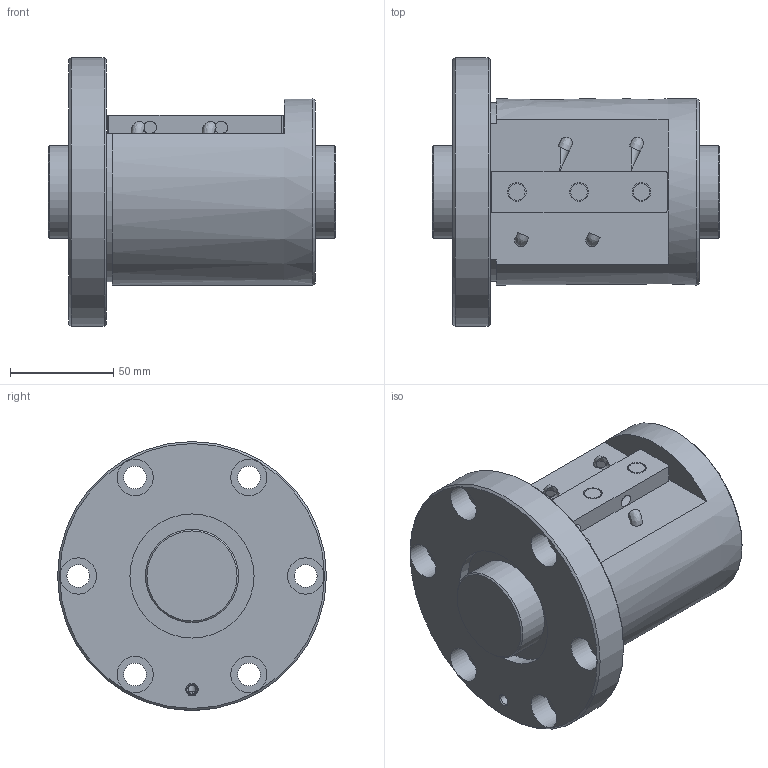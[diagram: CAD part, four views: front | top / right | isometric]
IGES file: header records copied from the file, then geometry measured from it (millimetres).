
Start section: Data from Parasolid IGES Translator 26.0.171, Copyright(c) 2006 Siemens PLM Software. All Rights Reserved.
Global section: file name: BNF4512V-5RRG1+139LC0_000_rev.igs; native system: By Siemens PLM Incorporated; preprocessor: XPlus GENERIC/IGES 26.0.171; author: Noname; organization: Noname; date: 20240806.085510; units: millimetre
Bounding box: 139 x 130 x 130 mm (x, y, z)
Surface area: 108125.7 mm2 (no closed solid volume)
Topology: 0 solids, 0 shells, 79 faces, 346 edges, 300 vertices
Faces by surface type: revolution 50, extrusion 29
